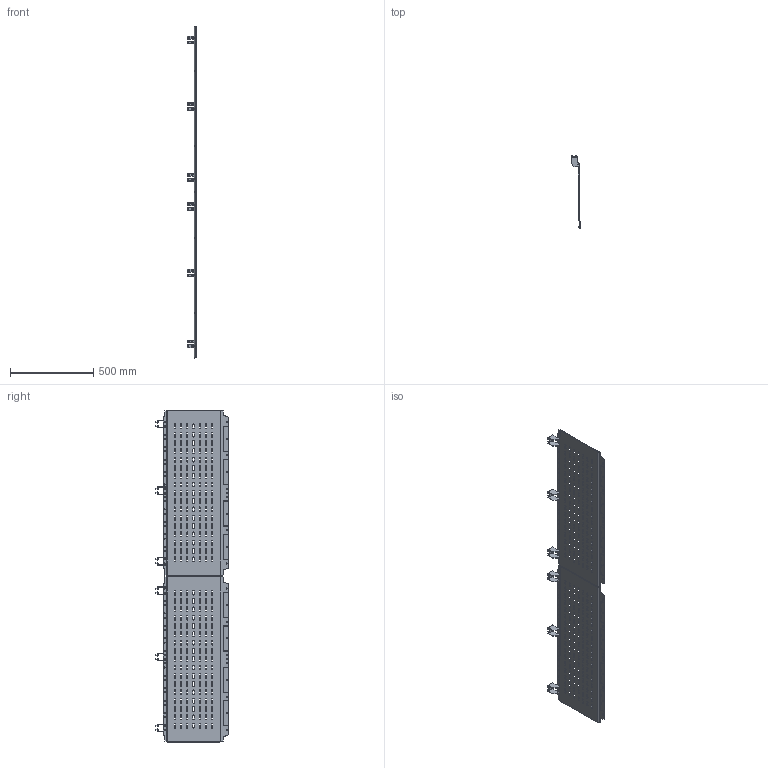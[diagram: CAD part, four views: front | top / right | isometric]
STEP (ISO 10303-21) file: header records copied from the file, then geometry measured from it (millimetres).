
FILE_DESCRIPTION (( 'STEP AP214' ), '1' );
FILE_NAME ('FO-00-SWB-040-200 Ïåðåãîðîäêà ñåêöèîíèðîâàíèÿ âñòðîåííîãî îòñåêà 400õ2000 ìì.STEP', '2025-08-13T07:27:41', ( '' ), ( '' ), 'SwSTEP 2.0', 'SolidWorks 2023', '' );
FILE_SCHEMA (( 'AUTOMOTIVE_DESIGN' ));
Length unit declared in the file: millimetre
Products named in the file (2): Перегородка секционирования встроенного отсека 400x2000 мм; FO-00-SWB-040-200 Перегородка секционирования встроенного отсека 400х2000 мм
Assembly tree (2 placements, depth 2):
  FO-00-SWB-040-200 Перегородка секционирования встроенного отсека 400х2000 мм
    Перегородка секционирования встроенного отсека 400x2000 мм  x2
Bounding box: 57.84 x 436.5 x 1996.75 mm (x, y, z)
Volume: 1189265.2 mm3; surface area: 1587149.1 mm2
Topology: 2 solids, 8 shells, 2604 faces, 7376 edges, 4850 vertices
Faces by surface type: cylinder 1220, plane 1204, torus 68, cone 68, sphere 44
Entity records: 43512 total; most frequent: CARTESIAN_POINT 8157, ORIENTED_EDGE 7376, DIRECTION 7295, EDGE_CURVE 3688, AXIS2_PLACEMENT_3D 2487, VERTEX_POINT 2425, LINE 2321, VECTOR 2321
